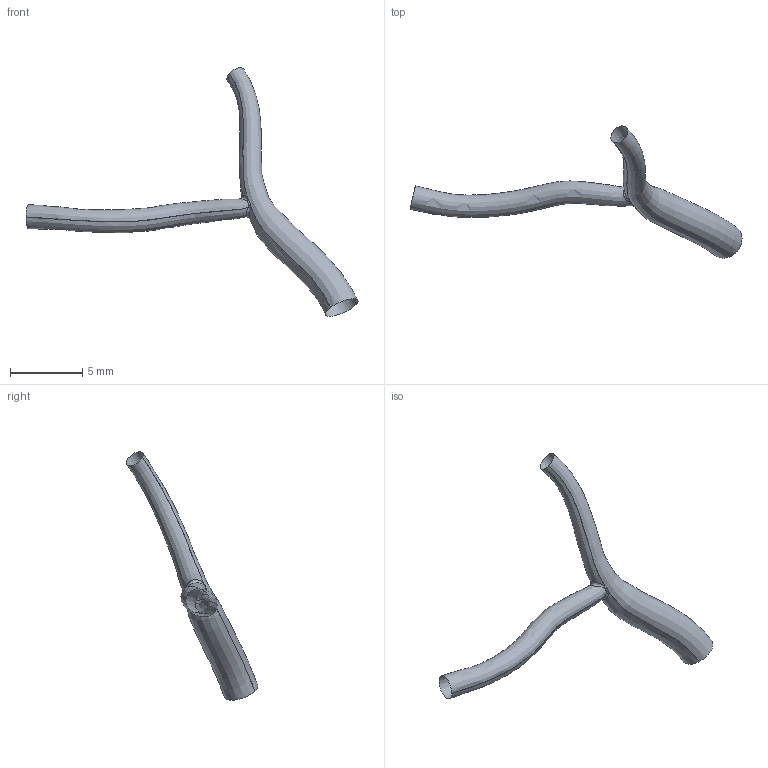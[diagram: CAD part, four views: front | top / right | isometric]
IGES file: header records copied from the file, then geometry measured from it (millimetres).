
Global section: file name: C:\Documents and Settings\Administrator\Desktop\FDA Bifurcation win\RawData_for_IGES\HRCA_Data\20001205.093751\IGES\20001205.093751.PDA.BIFUR.ES.igs; native system: Rhinoceros ( May 19 2006 ); preprocessor: Trout Lake IGES 012 May 19 2006; date: 100728.204011; units: centimetre
Bounding box: 22.99 x 9.12 x 17.21 mm (x, y, z)
Surface area: 194.7 mm2 (no closed solid volume)
Topology: 0 solids, 0 shells, 5 faces, 46 edges, 43 vertices
Faces by surface type: bspline 5
